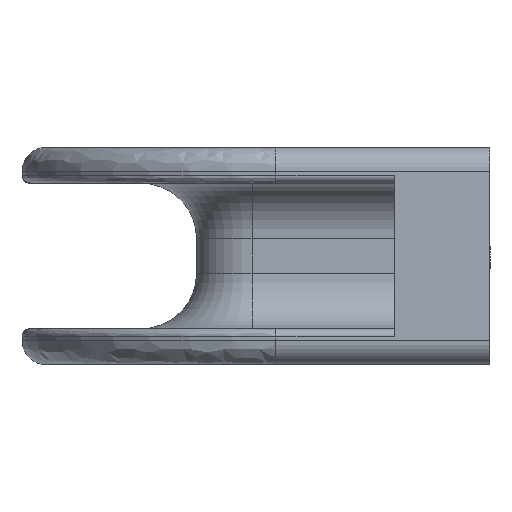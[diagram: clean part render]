
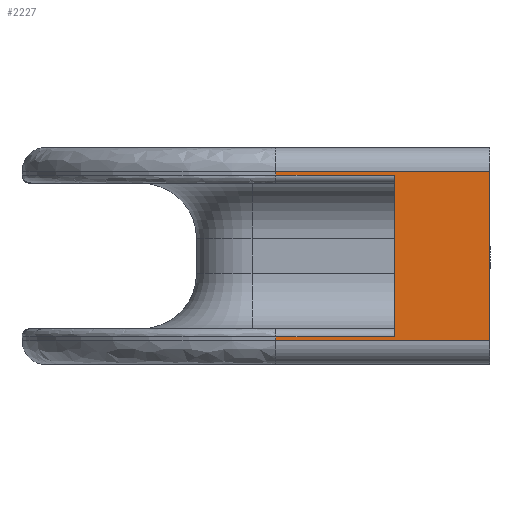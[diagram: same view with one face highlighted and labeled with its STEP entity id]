
A CAD part, left-side view. The second image highlights one B-rep face of the part: STEP entity #2227.
In plain terms, the highlighted planar face has unit normal (-1, 0, 0).
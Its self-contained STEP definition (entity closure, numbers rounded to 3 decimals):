
#30 = CARTESIAN_POINT ( 'NONE',  ( -26.378, -11.462, 0. ) ) ;
#33 = VECTOR ( 'NONE', #332, 1000. ) ;
#43 = LINE ( 'NONE', #731, #1117 ) ;
#250 = PLANE ( 'NONE',  #2390 ) ;
#270 = ORIENTED_EDGE ( 'NONE', *, *, #772, .T. ) ;
#325 = EDGE_CURVE ( 'NONE', #1375, #2270, #1786, .T. ) ;
#332 = DIRECTION ( 'NONE',  ( 0., 0., 1. ) ) ;
#428 = DIRECTION ( 'NONE',  ( 0., -1., 0. ) ) ;
#463 = DIRECTION ( 'NONE',  ( 0., 0., 1. ) ) ;
#478 = CARTESIAN_POINT ( 'NONE',  ( -26.378, -11.462, 3.5 ) ) ;
#512 = LINE ( 'NONE', #1820, #2350 ) ;
#525 = LINE ( 'NONE', #1877, #33 ) ;
#731 = CARTESIAN_POINT ( 'NONE',  ( -26.378, -38.462, 24.35 ) ) ;
#772 = EDGE_CURVE ( 'NONE', #794, #1871, #43, .T. ) ;
#794 = VERTEX_POINT ( 'NONE', #2721 ) ;
#826 = VERTEX_POINT ( 'NONE', #2056 ) ;
#838 = CARTESIAN_POINT ( 'NONE',  ( -26.378, -11.462, 23.85 ) ) ;
#877 = DIRECTION ( 'NONE',  ( 0., -1., 0. ) ) ;
#894 = FACE_OUTER_BOUND ( 'NONE', #1182, .T. ) ;
#896 = VECTOR ( 'NONE', #428, 1000. ) ;
#962 = CARTESIAN_POINT ( 'NONE',  ( -26.378, -38.462, 3. ) ) ;
#982 = VECTOR ( 'NONE', #1972, 1000. ) ;
#1013 = ORIENTED_EDGE ( 'NONE', *, *, #2066, .F. ) ;
#1051 = ORIENTED_EDGE ( 'NONE', *, *, #1308, .T. ) ;
#1101 = LINE ( 'NONE', #1677, #896 ) ;
#1117 = VECTOR ( 'NONE', #1999, 1000. ) ;
#1182 = EDGE_LOOP ( 'NONE', ( #1745, #1652, #2447, #2290, #1051, #2482, #270, #1013 ) ) ;
#1206 = EDGE_CURVE ( 'NONE', #2270, #826, #1305, .T. ) ;
#1267 = VERTEX_POINT ( 'NONE', #2219 ) ;
#1305 = LINE ( 'NONE', #2201, #2479 ) ;
#1308 = EDGE_CURVE ( 'NONE', #1375, #2457, #1602, .T. ) ;
#1312 = CARTESIAN_POINT ( 'NONE',  ( -26.378, -11.462, 24.35 ) ) ;
#1364 = DIRECTION ( 'NONE',  ( 0., 0., 1. ) ) ;
#1375 = VERTEX_POINT ( 'NONE', #2068 ) ;
#1430 = DIRECTION ( 'NONE',  ( 0., -1., 0. ) ) ;
#1481 = EDGE_CURVE ( 'NONE', #2117, #1267, #1101, .T. ) ;
#1504 = CARTESIAN_POINT ( 'NONE',  ( -26.378, -38.462, 3. ) ) ;
#1589 = CARTESIAN_POINT ( 'NONE',  ( -26.378, -26.462, 13.675 ) ) ;
#1602 = LINE ( 'NONE', #962, #2803 ) ;
#1652 = ORIENTED_EDGE ( 'NONE', *, *, #2229, .F. ) ;
#1677 = CARTESIAN_POINT ( 'NONE',  ( -26.378, -38.462, 23.85 ) ) ;
#1745 = ORIENTED_EDGE ( 'NONE', *, *, #1481, .T. ) ;
#1786 = LINE ( 'NONE', #30, #982 ) ;
#1820 = CARTESIAN_POINT ( 'NONE',  ( -26.378, -38.462, 0. ) ) ;
#1871 = VERTEX_POINT ( 'NONE', #1312 ) ;
#1877 = CARTESIAN_POINT ( 'NONE',  ( -26.378, -11.462, 0. ) ) ;
#1972 = DIRECTION ( 'NONE',  ( 0., 0., 1. ) ) ;
#1985 = LINE ( 'NONE', #1589, #2536 ) ;
#1999 = DIRECTION ( 'NONE',  ( 0., 1., 0. ) ) ;
#2001 = EDGE_CURVE ( 'NONE', #2457, #794, #512, .T. ) ;
#2026 = CARTESIAN_POINT ( 'NONE',  ( -26.378, -38.462, 0. ) ) ;
#2056 = CARTESIAN_POINT ( 'NONE',  ( -26.378, -26.462, 3.5 ) ) ;
#2066 = EDGE_CURVE ( 'NONE', #2117, #1871, #525, .T. ) ;
#2068 = CARTESIAN_POINT ( 'NONE',  ( -26.378, -11.462, 3. ) ) ;
#2117 = VERTEX_POINT ( 'NONE', #838 ) ;
#2201 = CARTESIAN_POINT ( 'NONE',  ( -26.378, -8.962, 3.5 ) ) ;
#2219 = CARTESIAN_POINT ( 'NONE',  ( -26.378, -26.462, 23.85 ) ) ;
#2227 = ADVANCED_FACE ( 'NONE', ( #894 ), #250, .T. ) ;
#2229 = EDGE_CURVE ( 'NONE', #826, #1267, #1985, .T. ) ;
#2270 = VERTEX_POINT ( 'NONE', #478 ) ;
#2290 = ORIENTED_EDGE ( 'NONE', *, *, #325, .F. ) ;
#2350 = VECTOR ( 'NONE', #2688, 1000. ) ;
#2390 = AXIS2_PLACEMENT_3D ( 'NONE', #2026, #2409, #1364 ) ;
#2409 = DIRECTION ( 'NONE',  ( -1., 0., 0. ) ) ;
#2447 = ORIENTED_EDGE ( 'NONE', *, *, #1206, .F. ) ;
#2457 = VERTEX_POINT ( 'NONE', #1504 ) ;
#2479 = VECTOR ( 'NONE', #877, 1000. ) ;
#2482 = ORIENTED_EDGE ( 'NONE', *, *, #2001, .T. ) ;
#2536 = VECTOR ( 'NONE', #463, 1000. ) ;
#2688 = DIRECTION ( 'NONE',  ( 0., 0., 1. ) ) ;
#2721 = CARTESIAN_POINT ( 'NONE',  ( -26.378, -38.462, 24.35 ) ) ;
#2803 = VECTOR ( 'NONE', #1430, 1000. ) ;
